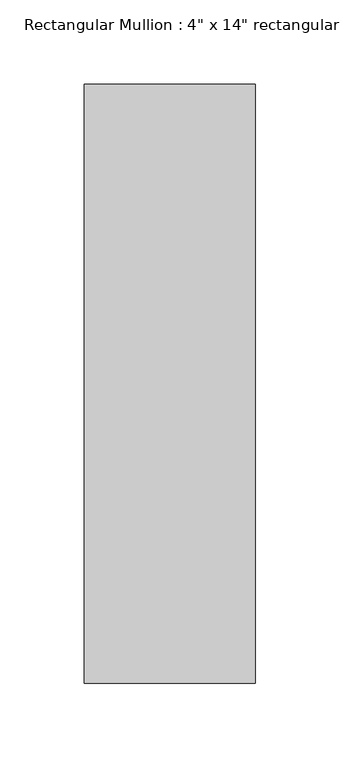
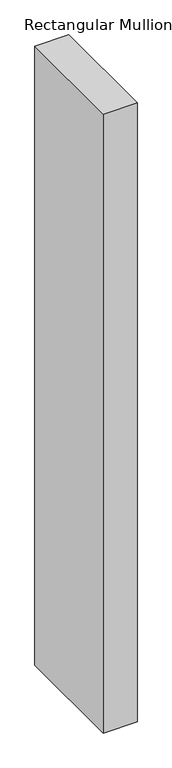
"""IFC4 building model written with IfcOpenShell, lengths in millimetres: member geometry."""

from ifc_helpers import new_model, si_unit, frame, origin, place, context, project, spatial, polyline, outline, extrude, source, transform, mapped, element, save


def member_cb88a2bc(model_context):
    return source(origin(), model_context, "Body", "SweptSolid", [
        extrude(outline(polyline([(50.8, 292.1), (50.8, -63.5), (-50.8, -63.5), (-50.8, 292.1), (50.8, 292.1)])), frame((0.0, 0.0, -1966.1333806), z_axis=(0.0, 0.0, 1.0), x_axis=(1.0, 0.0, 0.0)), (0.0, 0.0, 1.0), 1966.1333806),
    ])


if __name__ == "__main__":
    model = new_model("IFC4")
    model_context = context("Model", 3, world=origin())
    ifc_project = project(units=[si_unit("LENGTHUNIT", "METRE", prefix="MILLI")], contexts=[model_context])
    site = spatial("IfcSite", under=ifc_project)
    building = spatial("IfcBuilding", under=site)
    placement = place(None, origin())
    member_shape = member_cb88a2bc(model_context)
    element("IfcMember", 1, ObjectType="Rectangular Mullion : 4\" x 14\" rectangular", at=placement, inside=building, context=model_context, shape_type="MappedRepresentation", body=[
        mapped(member_shape, transform((0.0, 0.0, 0.0), x_axis=(1.0, 0.0, 0.0), y_axis=(0.0, 1.0, 0.0), z_axis=(0.0, 0.0, 1.0))),
    ])
    save(model, "model.ifc")
